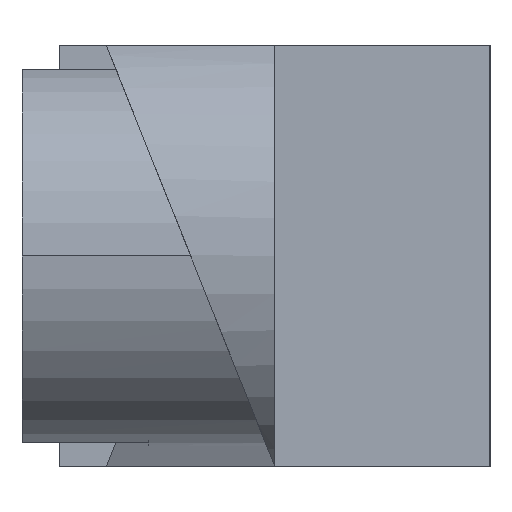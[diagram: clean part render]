
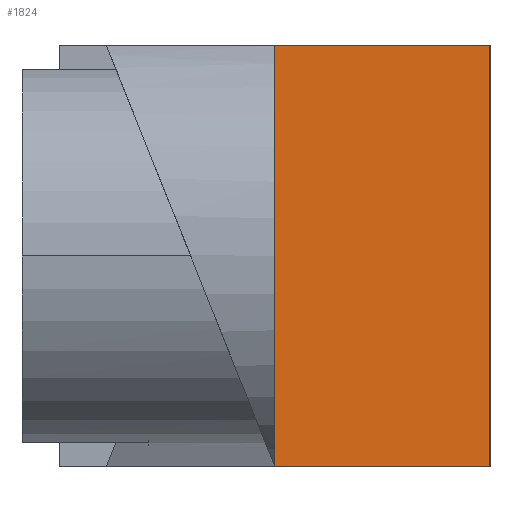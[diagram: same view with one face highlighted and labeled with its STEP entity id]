
A CAD part, left-side view. The second image highlights one B-rep face of the part: STEP entity #1824.
In plain terms, the highlighted planar face has unit normal (-1, 0, 0).
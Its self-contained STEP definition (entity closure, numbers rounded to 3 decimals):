
#160 = EDGE_LOOP ( 'NONE', ( #1624, #1158, #579, #1784 ) ) ;
#210 = LINE ( 'NONE', #429, #966 ) ;
#215 = DIRECTION ( 'NONE',  ( 0., 0., -1. ) ) ;
#260 = DIRECTION ( 'NONE',  ( 0., -1., 0. ) ) ;
#354 = DIRECTION ( 'NONE',  ( 0., -1., 0. ) ) ;
#393 = EDGE_CURVE ( 'NONE', #602, #1491, #1133, .T. ) ;
#429 = CARTESIAN_POINT ( 'NONE',  ( 0., 2.55, 0. ) ) ;
#436 = VECTOR ( 'NONE', #1033, 1000. ) ;
#463 = VERTEX_POINT ( 'NONE', #1710 ) ;
#508 = EDGE_CURVE ( 'NONE', #669, #463, #1857, .T. ) ;
#579 = ORIENTED_EDGE ( 'NONE', *, *, #809, .F. ) ;
#602 = VERTEX_POINT ( 'NONE', #1872 ) ;
#645 = LINE ( 'NONE', #1654, #1287 ) ;
#658 = FACE_OUTER_BOUND ( 'NONE', #160, .T. ) ;
#669 = VERTEX_POINT ( 'NONE', #899 ) ;
#809 = EDGE_CURVE ( 'NONE', #602, #669, #645, .T. ) ;
#829 = EDGE_CURVE ( 'NONE', #1491, #463, #210, .T. ) ;
#899 = CARTESIAN_POINT ( 'NONE',  ( 0., 0., 5. ) ) ;
#966 = VECTOR ( 'NONE', #260, 1000. ) ;
#979 = CARTESIAN_POINT ( 'NONE',  ( 0., 2.55, 5. ) ) ;
#980 = DIRECTION ( 'NONE',  ( 1., 0., 0. ) ) ;
#1006 = AXIS2_PLACEMENT_3D ( 'NONE', #1512, #980, #215 ) ;
#1015 = CARTESIAN_POINT ( 'NONE',  ( 0., 0., 5. ) ) ;
#1033 = DIRECTION ( 'NONE',  ( 0., 0., -1. ) ) ;
#1124 = DIRECTION ( 'NONE',  ( 0., 0., -1. ) ) ;
#1133 = LINE ( 'NONE', #979, #1822 ) ;
#1158 = ORIENTED_EDGE ( 'NONE', *, *, #508, .F. ) ;
#1287 = VECTOR ( 'NONE', #354, 1000. ) ;
#1491 = VERTEX_POINT ( 'NONE', #1539 ) ;
#1512 = CARTESIAN_POINT ( 'NONE',  ( 0., 2.55, 5. ) ) ;
#1539 = CARTESIAN_POINT ( 'NONE',  ( 0., 2.55, 0. ) ) ;
#1624 = ORIENTED_EDGE ( 'NONE', *, *, #829, .T. ) ;
#1654 = CARTESIAN_POINT ( 'NONE',  ( 0., 2.55, 5. ) ) ;
#1710 = CARTESIAN_POINT ( 'NONE',  ( 0., 0., 0. ) ) ;
#1784 = ORIENTED_EDGE ( 'NONE', *, *, #393, .T. ) ;
#1813 = PLANE ( 'NONE',  #1006 ) ;
#1822 = VECTOR ( 'NONE', #1124, 1000. ) ;
#1824 = ADVANCED_FACE ( 'NONE', ( #658 ), #1813, .F. ) ;
#1857 = LINE ( 'NONE', #1015, #436 ) ;
#1872 = CARTESIAN_POINT ( 'NONE',  ( 0., 2.55, 5. ) ) ;
